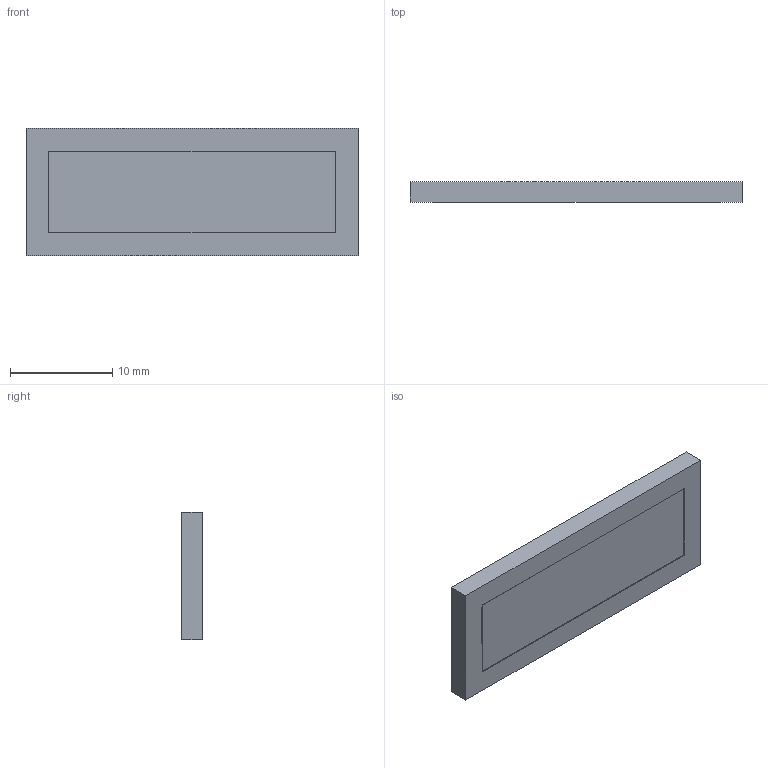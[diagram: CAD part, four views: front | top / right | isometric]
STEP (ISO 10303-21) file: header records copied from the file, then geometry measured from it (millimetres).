
FILE_DESCRIPTION((''),'2;1');
FILE_NAME('TOP_JP','2024-12-18T',('18137'),(''),'CREO PARAMETRIC BY PTC INC, 2016050','CREO PARAMETRIC BY PTC INC, 2016050','');
FILE_SCHEMA(('CONFIG_CONTROL_DESIGN'));
Length unit declared in the file: millimetre
Products named in the file (1): TOP_JP
Bounding box: 32.5 x 2 x 12.5 mm (x, y, z)
Volume: 801.3 mm3; surface area: 996.1 mm2
Topology: 1 solids, 1 shells, 11 faces, 24 edges, 16 vertices
Faces by surface type: plane 11
Entity records: 336 total; most frequent: CARTESIAN_POINT 51, ORIENTED_EDGE 48, DIRECTION 46, VECTOR 24, LINE 24, EDGE_CURVE 24, VERTEX_POINT 16, EDGE_LOOP 12
